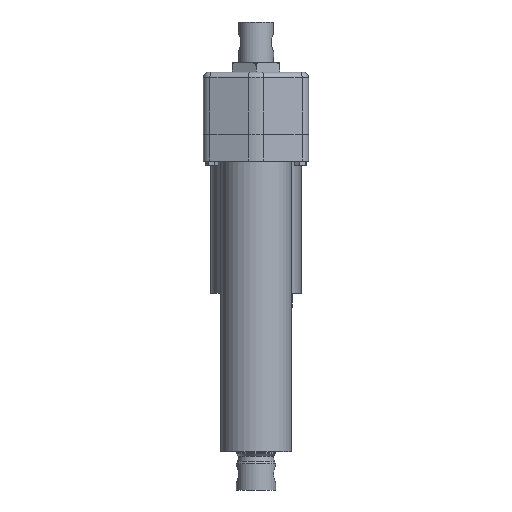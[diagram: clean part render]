
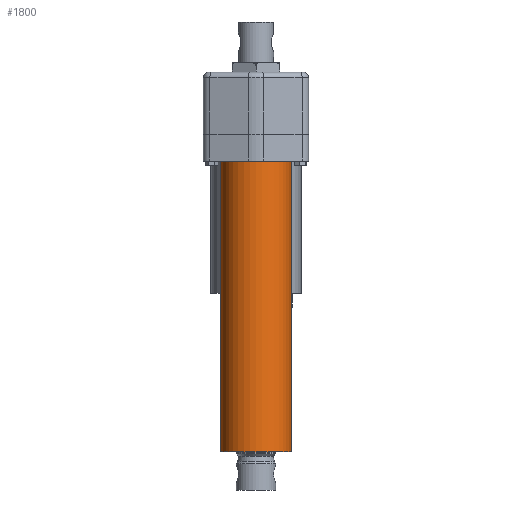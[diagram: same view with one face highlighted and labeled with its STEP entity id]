
A CAD part, front view. The second image highlights one B-rep face of the part: STEP entity #1800.
In plain terms, the highlighted cylindrical face has radius 25.5 mm (diameter 51 mm), a full revolution.
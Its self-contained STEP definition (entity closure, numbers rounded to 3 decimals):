
#299 = AXIS2_PLACEMENT_3D ( 'NONE', #4770, #4771, #4772 ) ;
#445 = AXIS2_PLACEMENT_3D ( 'NONE', #3434, #3428, #3433 ) ;
#479 = AXIS2_PLACEMENT_3D ( 'NONE', #3699, #3700, #3701 ) ;
#902 = ORIENTED_EDGE ( 'NONE', *, *, #5080, .F. ) ;
#929 = ORIENTED_EDGE ( 'NONE', *, *, #1488, .F. ) ;
#1150 = EDGE_LOOP ( 'NONE', ( #929 ) ) ;
#1156 = EDGE_LOOP ( 'NONE', ( #902 ) ) ;
#1488 = EDGE_CURVE ( 'NONE', #3723, #3723, #2159, .T. ) ;
#1800 = ADVANCED_FACE ( 'NONE', ( #2515, #2522 ), #2510, .T. ) ;
#2159 = CIRCLE ( 'NONE', #299, 25.5 ) ;
#2510 = CYLINDRICAL_SURFACE ( 'NONE', #445, 25.5 ) ;
#2515 = FACE_OUTER_BOUND ( 'NONE', #1150, .T. ) ;
#2522 = FACE_OUTER_BOUND ( 'NONE', #1156, .T. ) ;
#2597 = CIRCLE ( 'NONE', #479, 25.5 ) ;
#3428 = DIRECTION ( 'NONE',  ( 0., 0., 1. ) ) ;
#3433 = DIRECTION ( 'NONE',  ( 1., 0., 0. ) ) ;
#3434 = CARTESIAN_POINT ( 'NONE',  ( 0., 0., -72.125 ) ) ;
#3699 = CARTESIAN_POINT ( 'NONE',  ( 0., 0., 210.5 ) ) ;
#3700 = DIRECTION ( 'NONE',  ( 0., 0., 1. ) ) ;
#3701 = DIRECTION ( 'NONE',  ( 1., 0., 0. ) ) ;
#3723 = VERTEX_POINT ( 'NONE', #3727 ) ;
#3727 = CARTESIAN_POINT ( 'NONE',  ( 25.5, 0., 0. ) ) ;
#3850 = VERTEX_POINT ( 'NONE', #3851 ) ;
#3851 = CARTESIAN_POINT ( 'NONE',  ( 25.5, 0., 210.5 ) ) ;
#4770 = CARTESIAN_POINT ( 'NONE',  ( 0., 0., 0. ) ) ;
#4771 = DIRECTION ( 'NONE',  ( 0., 0., -1. ) ) ;
#4772 = DIRECTION ( 'NONE',  ( 1., 0., 0. ) ) ;
#5080 = EDGE_CURVE ( 'NONE', #3850, #3850, #2597, .T. ) ;
